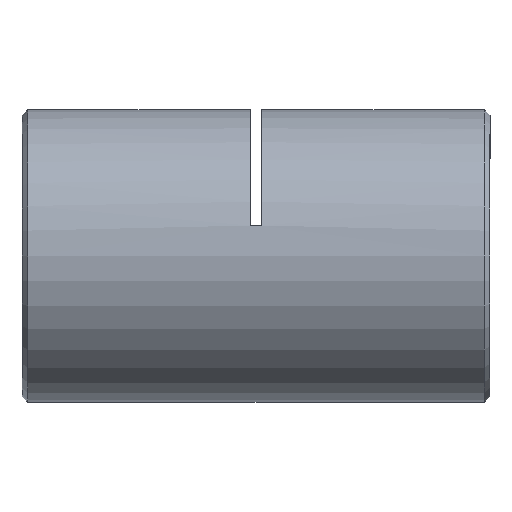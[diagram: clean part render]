
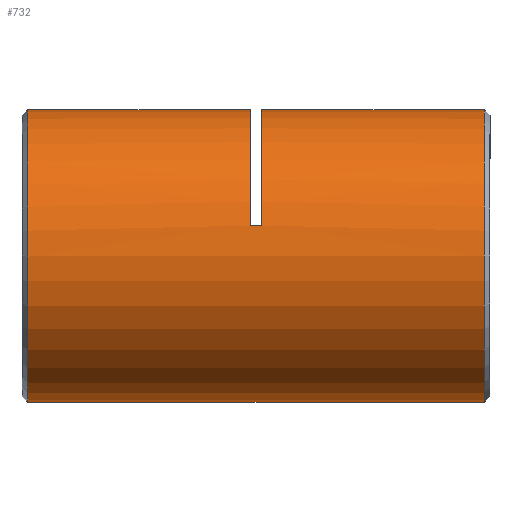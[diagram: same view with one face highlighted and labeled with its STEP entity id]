
A CAD part, left-side view. The second image highlights one B-rep face of the part: STEP entity #732.
In plain terms, the highlighted cylindrical face has radius 12.5 mm (diameter 25 mm), a partial arc.
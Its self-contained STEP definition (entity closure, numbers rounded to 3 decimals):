
#7 = ORIENTED_EDGE ( 'NONE', *, *, #4151, .F. ) ;
#191 = DIRECTION ( 'NONE',  ( 0., -1., 0. ) ) ;
#287 = DIRECTION ( 'NONE',  ( 0., 0., 1. ) ) ;
#329 = LINE ( 'NONE', #1185, #3728 ) ;
#366 = EDGE_LOOP ( 'NONE', ( #2666, #4011, #777, #595, #7, #4662, #3355, #466 ) ) ;
#397 = CARTESIAN_POINT ( 'NONE',  ( 0., 0.75, 12.5 ) ) ;
#444 = CARTESIAN_POINT ( 'NONE',  ( 0., 40.5, 12.5 ) ) ;
#466 = ORIENTED_EDGE ( 'NONE', *, *, #3142, .T. ) ;
#504 = CARTESIAN_POINT ( 'NONE',  ( 0., 19.75, 12.5 ) ) ;
#506 = AXIS2_PLACEMENT_3D ( 'NONE', #988, #4481, #4562 ) ;
#595 = ORIENTED_EDGE ( 'NONE', *, *, #4115, .T. ) ;
#599 = AXIS2_PLACEMENT_3D ( 'NONE', #4579, #706, #4656 ) ;
#621 = EDGE_CURVE ( 'NONE', #5168, #2852, #5223, .T. ) ;
#682 = AXIS2_PLACEMENT_3D ( 'NONE', #3295, #4238, #287 ) ;
#706 = DIRECTION ( 'NONE',  ( 0., 1., 0. ) ) ;
#709 = CIRCLE ( 'NONE', #3928, 12.5 ) ;
#732 = ADVANCED_FACE ( 'NONE', ( #2385 ), #4541, .T. ) ;
#777 = ORIENTED_EDGE ( 'NONE', *, *, #4387, .T. ) ;
#988 = CARTESIAN_POINT ( 'NONE',  ( 0., 20.75, 0. ) ) ;
#996 = LINE ( 'NONE', #4029, #1538 ) ;
#1185 = CARTESIAN_POINT ( 'NONE',  ( 0., 40.5, 12.5 ) ) ;
#1510 = CIRCLE ( 'NONE', #506, 12.5 ) ;
#1538 = VECTOR ( 'NONE', #2302, 1000. ) ;
#1561 = VERTEX_POINT ( 'NONE', #2510 ) ;
#1562 = LINE ( 'NONE', #3791, #2283 ) ;
#1600 = VERTEX_POINT ( 'NONE', #504 ) ;
#1982 = CARTESIAN_POINT ( 'NONE',  ( 0., 39.75, 0. ) ) ;
#2043 = EDGE_CURVE ( 'NONE', #2504, #1600, #3251, .T. ) ;
#2234 = VERTEX_POINT ( 'NONE', #397 ) ;
#2283 = VECTOR ( 'NONE', #2449, 1000. ) ;
#2302 = DIRECTION ( 'NONE',  ( 0., -1., 0. ) ) ;
#2332 = CARTESIAN_POINT ( 'NONE',  ( 0., 40.5, 0. ) ) ;
#2385 = FACE_OUTER_BOUND ( 'NONE', #366, .T. ) ;
#2441 = DIRECTION ( 'NONE',  ( 0., -1., 0. ) ) ;
#2449 = DIRECTION ( 'NONE',  ( 0., 1., 0. ) ) ;
#2504 = VERTEX_POINT ( 'NONE', #3290 ) ;
#2510 = CARTESIAN_POINT ( 'NONE',  ( 0., 39.75, -12.5 ) ) ;
#2666 = ORIENTED_EDGE ( 'NONE', *, *, #621, .F. ) ;
#2719 = VECTOR ( 'NONE', #3965, 1000. ) ;
#2822 = CARTESIAN_POINT ( 'NONE',  ( 0., 39.75, 12.5 ) ) ;
#2852 = VERTEX_POINT ( 'NONE', #3281 ) ;
#3142 = EDGE_CURVE ( 'NONE', #4345, #2852, #1510, .T. ) ;
#3251 = CIRCLE ( 'NONE', #682, 12.5 ) ;
#3281 = CARTESIAN_POINT ( 'NONE',  ( 0., 20.75, 12.5 ) ) ;
#3290 = CARTESIAN_POINT ( 'NONE',  ( -12.226, 19.75, 2.604 ) ) ;
#3295 = CARTESIAN_POINT ( 'NONE',  ( 0., 19.75, 0. ) ) ;
#3355 = ORIENTED_EDGE ( 'NONE', *, *, #3717, .T. ) ;
#3659 = VERTEX_POINT ( 'NONE', #5065 ) ;
#3717 = EDGE_CURVE ( 'NONE', #2504, #4345, #1562, .T. ) ;
#3728 = VECTOR ( 'NONE', #3867, 1000. ) ;
#3751 = AXIS2_PLACEMENT_3D ( 'NONE', #2332, #191, #4515 ) ;
#3791 = CARTESIAN_POINT ( 'NONE',  ( -12.226, 20.25, 2.604 ) ) ;
#3867 = DIRECTION ( 'NONE',  ( 0., -1., 0. ) ) ;
#3928 = AXIS2_PLACEMENT_3D ( 'NONE', #1982, #2441, #5079 ) ;
#3965 = DIRECTION ( 'NONE',  ( 0., -1., 0. ) ) ;
#4011 = ORIENTED_EDGE ( 'NONE', *, *, #4019, .T. ) ;
#4019 = EDGE_CURVE ( 'NONE', #5168, #1561, #709, .T. ) ;
#4029 = CARTESIAN_POINT ( 'NONE',  ( 0., 40.5, -12.5 ) ) ;
#4057 = CARTESIAN_POINT ( 'NONE',  ( -12.226, 20.75, 2.604 ) ) ;
#4115 = EDGE_CURVE ( 'NONE', #3659, #2234, #4185, .T. ) ;
#4151 = EDGE_CURVE ( 'NONE', #1600, #2234, #329, .T. ) ;
#4185 = CIRCLE ( 'NONE', #599, 12.5 ) ;
#4238 = DIRECTION ( 'NONE',  ( 0., 1., 0. ) ) ;
#4345 = VERTEX_POINT ( 'NONE', #4057 ) ;
#4387 = EDGE_CURVE ( 'NONE', #1561, #3659, #996, .T. ) ;
#4481 = DIRECTION ( 'NONE',  ( 0., 1., 0. ) ) ;
#4515 = DIRECTION ( 'NONE',  ( 0., 0., -1. ) ) ;
#4541 = CYLINDRICAL_SURFACE ( 'NONE', #3751, 12.5 ) ;
#4562 = DIRECTION ( 'NONE',  ( 0., 0., 1. ) ) ;
#4579 = CARTESIAN_POINT ( 'NONE',  ( 0., 0.75, 0. ) ) ;
#4656 = DIRECTION ( 'NONE',  ( 0., 0., 1. ) ) ;
#4662 = ORIENTED_EDGE ( 'NONE', *, *, #2043, .F. ) ;
#5065 = CARTESIAN_POINT ( 'NONE',  ( 0., 0.75, -12.5 ) ) ;
#5079 = DIRECTION ( 'NONE',  ( 0., 0., -1. ) ) ;
#5168 = VERTEX_POINT ( 'NONE', #2822 ) ;
#5223 = LINE ( 'NONE', #444, #2719 ) ;
